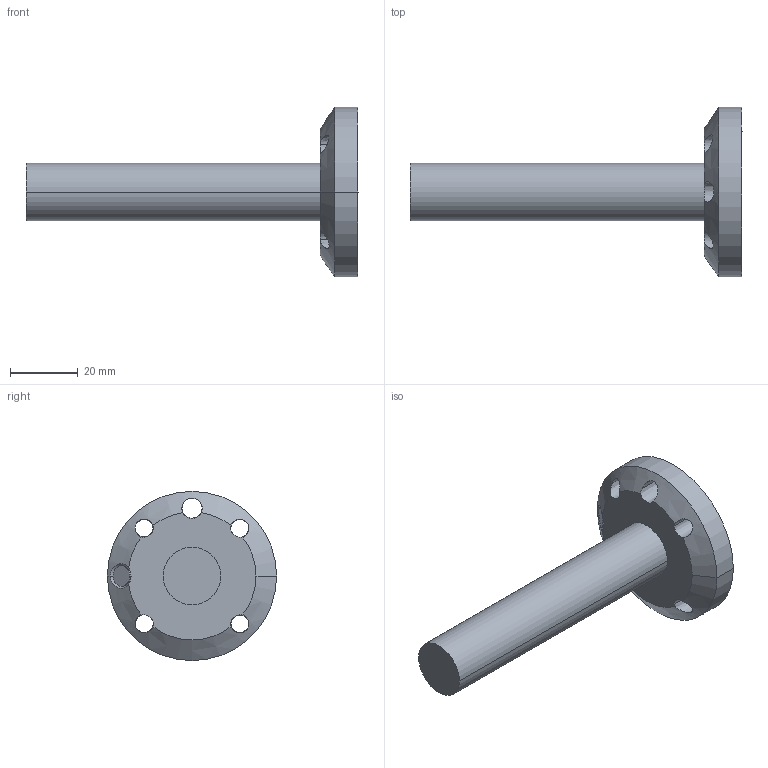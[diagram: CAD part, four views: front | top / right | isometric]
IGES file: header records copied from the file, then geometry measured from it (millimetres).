
Start section: SolidWorks IGES file using analytic representation for surfaces
Global section: file name: C:\Holley\Robot\IRB1600\CAD model\IRB1600_X-145_SW_IRC5_rev02\IRB1600_X-145_SW\IRB1600_X-145_IRC5_rev1_LINK6.IGS; native system: SolidWorks 2020; preprocessor: SolidWorks 2020; author: CNHOCHE3; date: 211129.145441; units: millimetre
Bounding box: 98.08 x 50 x 50 mm (x, y, z)
Surface area: 11062.6 mm2 (no closed solid volume)
Topology: 0 solids, 2 shells, 55 faces, 151 edges, 96 vertices
Faces by surface type: revolution 42, plane 13
